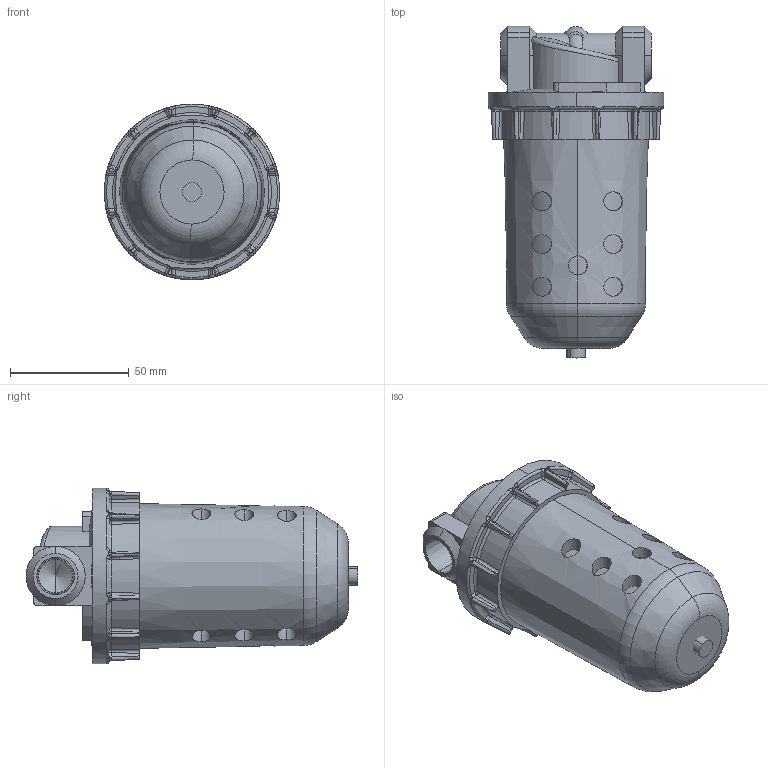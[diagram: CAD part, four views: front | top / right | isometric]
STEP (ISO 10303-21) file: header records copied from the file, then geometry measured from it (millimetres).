
FILE_DESCRIPTION (( 'STEP AP203' ), '1' );
FILE_NAME ('F602-03#YB#.STEP', '2016-02-16T05:15:11', ( 'Toshiba' ), ( 'Toshiba' ), 'SwSTEP 2.0', 'SolidWorks 2014', '' );
FILE_SCHEMA (( 'CONFIG_CONTROL_DESIGN' ));
Length unit declared in the file: millimetre
Products named in the file (4): F602-02-2; F602-03#YB#; L606-W-06-5
Assembly tree (3 placements, depth 2):
  F602-03#YB#
    (unnamed)
    F602-02-2
    L606-W-06-5
Bounding box: 74 x 139.96 x 74 mm (x, y, z)
Volume: 337326.6 mm3; surface area: 43380 mm2
Topology: 3 solids, 3 shells, 376 faces, 929 edges, 548 vertices
Faces by surface type: bspline 98, cylinder 89, plane 80, cone 47, torus 32, sphere 30
Entity records: 15859 total; most frequent: CARTESIAN_POINT 7711, ORIENTED_EDGE 1802, DIRECTION 1393, EDGE_CURVE 901, AXIS2_PLACEMENT_3D 589, VERTEX_POINT 548, EDGE_LOOP 393, FACE_OUTER_BOUND 376
